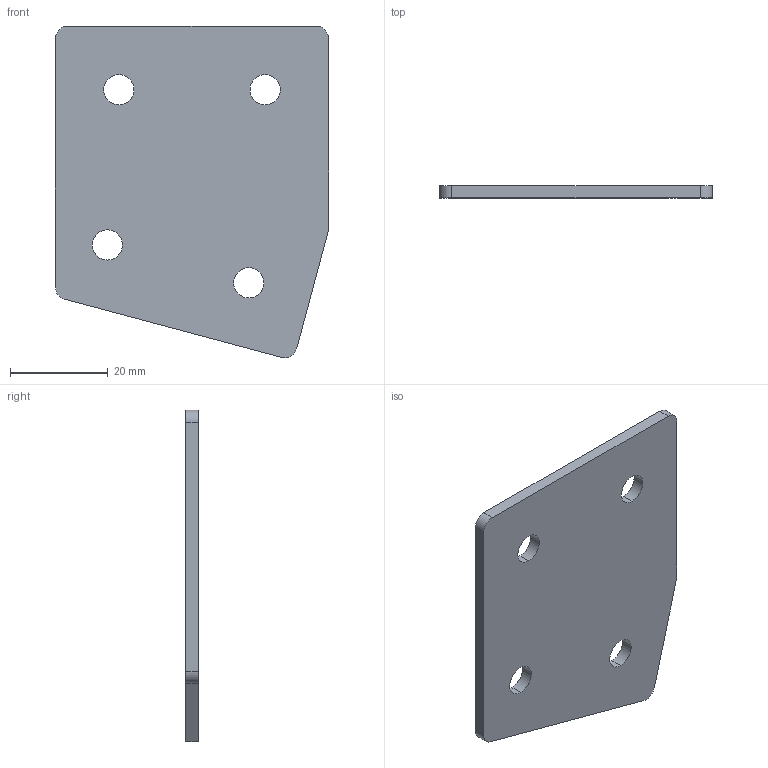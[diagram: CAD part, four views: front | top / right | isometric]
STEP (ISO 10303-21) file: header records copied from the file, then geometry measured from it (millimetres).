
FILE_DESCRIPTION (( 'STEP AP203' ), '1' );
FILE_NAME ('Ï-4-óãîë 15-30.STEP', '2016-07-23T15:47:58', ( '' ), ( '' ), 'SwSTEP 2.0', 'SolidWorks 2014', '' );
FILE_SCHEMA (( 'CONFIG_CONTROL_DESIGN' ));
Length unit declared in the file: millimetre
Products named in the file (1): Ï-4-óãîë 15-30
Bounding box: 56 x 2.5 x 67.95 mm (x, y, z)
Surface area: 7356.7 mm2 (no closed solid volume)
Topology: 0 solids, 1 shells, 20 faces, 54 edges, 36 vertices
Faces by surface type: cylinder 13, plane 7
Entity records: 737 total; most frequent: DIRECTION 122, CARTESIAN_POINT 111, ORIENTED_EDGE 108, EDGE_CURVE 54, AXIS2_PLACEMENT_3D 47, VERTEX_POINT 36, LINE 28, VECTOR 28
